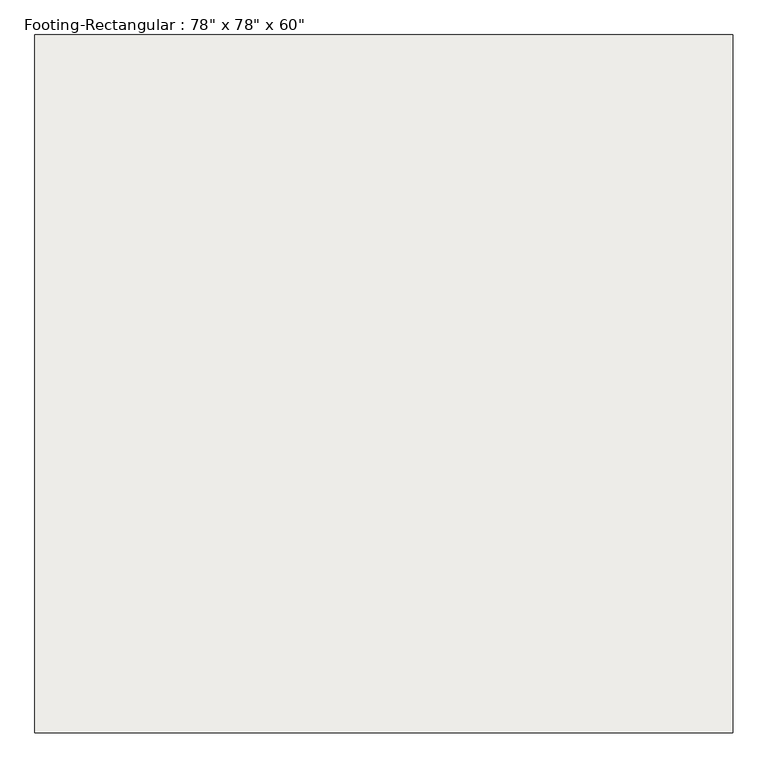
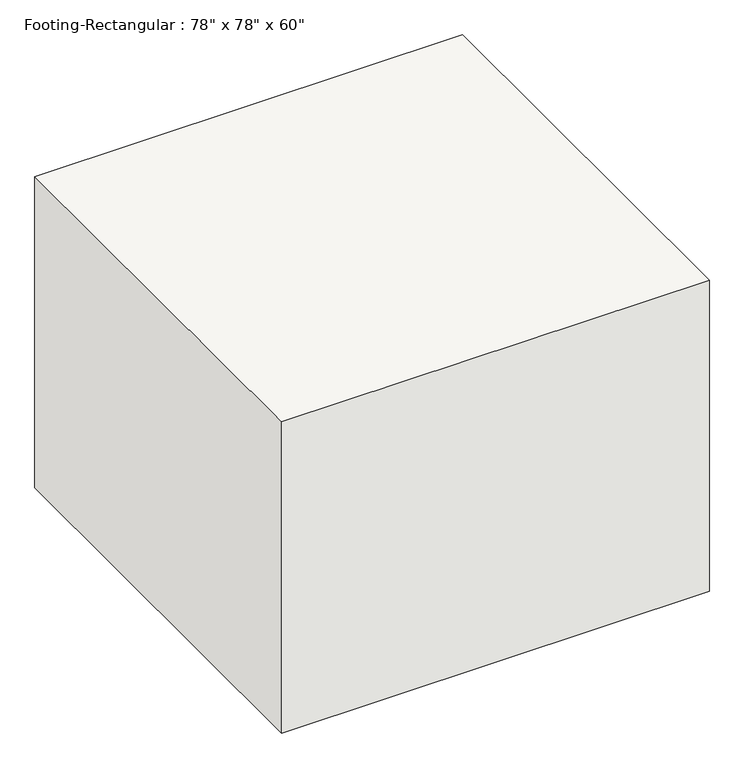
"""IFC4 building model written with IfcOpenShell, lengths in millimetres: slab geometry."""

from ifc_helpers import new_model, si_unit, frame, origin, place, context, project, spatial, polyline, outline, extrude, source, transform, mapped, element, save


def slab_430385ac(model_context):
    return source(origin(), model_context, "Body", "SweptSolid", [
        extrude(outline(polyline([(990.6, 990.6), (990.6, -990.6), (-990.6, -990.6), (-990.6, 990.6), (990.6, 990.6)])), frame((0.0, 0.0, -1524.0), z_axis=(0.0, 0.0, 1.0), x_axis=(1.0, 0.0, 0.0)), (0.0, 0.0, 1.0), 1524.0),
    ])


if __name__ == "__main__":
    model = new_model("IFC4")
    model_context = context("Model", 3, world=origin())
    ifc_project = project(units=[si_unit("LENGTHUNIT", "METRE", prefix="MILLI")], contexts=[model_context])
    site = spatial("IfcSite", under=ifc_project)
    building = spatial("IfcBuilding", under=site)
    placement = place(None, origin())
    slab_shape = slab_430385ac(model_context)
    element("IfcSlab", 1, ObjectType="Footing-Rectangular : 78\" x 78\" x 60\"", at=placement, inside=building, context=model_context, shape_type="MappedRepresentation", body=[
        mapped(slab_shape, transform((0.0, 0.0, 0.0), x_axis=(1.0, 0.0, 0.0), y_axis=(0.0, 1.0, 0.0), z_axis=(0.0, 0.0, 1.0))),
    ])
    save(model, "model.ifc")
